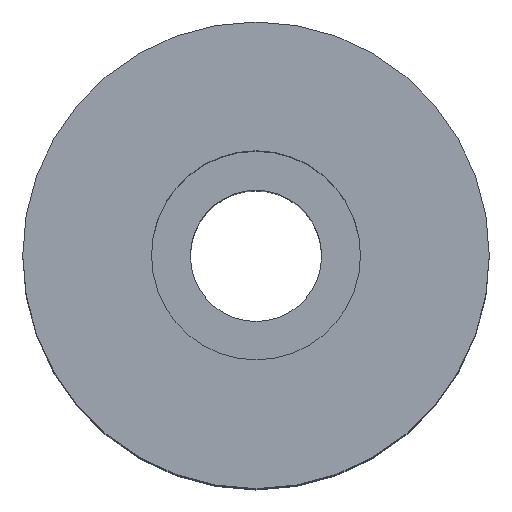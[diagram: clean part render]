
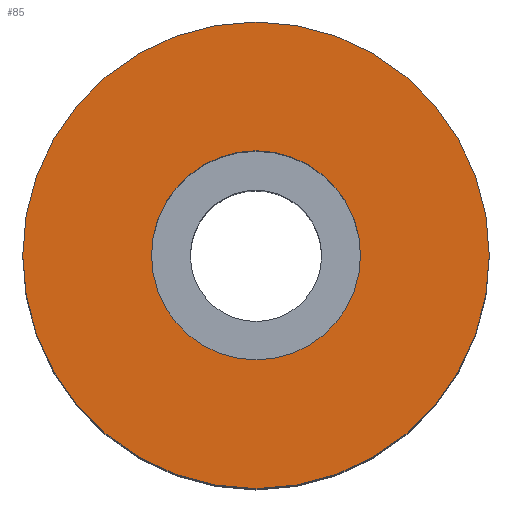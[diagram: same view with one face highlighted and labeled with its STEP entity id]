
A CAD part, top view. The second image highlights one B-rep face of the part: STEP entity #85.
In plain terms, the highlighted planar face has unit normal (0, 0, 1).
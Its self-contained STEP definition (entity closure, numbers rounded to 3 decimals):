
#85=ADVANCED_FACE('',(#132,#133),#134,.T.);
#132=FACE_BOUND('',#183,.T.);
#133=FACE_OUTER_BOUND('',#184,.T.);
#134=PLANE('',#185);
#183=EDGE_LOOP('',(#345,#346));
#184=EDGE_LOOP('',(#347,#348));
#185=AXIS2_PLACEMENT_3D('',#349,#350,#351);
#345=ORIENTED_EDGE('',*,*,#417,.F.);
#346=ORIENTED_EDGE('',*,*,#410,.F.);
#347=ORIENTED_EDGE('',*,*,#414,.T.);
#348=ORIENTED_EDGE('',*,*,#415,.T.);
#349=CARTESIAN_POINT('',(17.375,0.0,80.247));
#350=DIRECTION('',(-0.0,0.,1.0));
#351=DIRECTION('',(1.0,0.0,0.0));
#410=EDGE_CURVE('',#492,#488,#494,.T.);
#414=EDGE_CURVE('',#496,#500,#502,.T.);
#415=EDGE_CURVE('',#500,#496,#503,.T.);
#417=EDGE_CURVE('',#488,#492,#505,.T.);
#488=VERTEX_POINT('',#586);
#492=VERTEX_POINT('',#591);
#494=CIRCLE('',#594,10.75);
#496=VERTEX_POINT('',#596);
#500=VERTEX_POINT('',#601);
#502=CIRCLE('',#604,24.0);
#503=CIRCLE('',#605,24.0);
#505=CIRCLE('',#607,10.75);
#586=CARTESIAN_POINT('',(10.75,0.0,80.247));
#591=CARTESIAN_POINT('',(-10.75,0.,80.247));
#594=AXIS2_PLACEMENT_3D('',#717,#718,#719);
#596=CARTESIAN_POINT('',(24.0,0.0,80.247));
#601=CARTESIAN_POINT('',(-24.0,0.,80.247));
#604=AXIS2_PLACEMENT_3D('',#725,#726,#727);
#605=AXIS2_PLACEMENT_3D('',#728,#729,#730);
#607=AXIS2_PLACEMENT_3D('',#734,#735,#736);
#717=CARTESIAN_POINT('',(0.0,0.0,80.247));
#718=DIRECTION('',(-0.0,0.,1.0));
#719=DIRECTION('',(1.0,0.0,0.0));
#725=CARTESIAN_POINT('',(0.0,0.0,80.247));
#726=DIRECTION('',(-0.0,0.,1.0));
#727=DIRECTION('',(1.0,0.0,0.0));
#728=CARTESIAN_POINT('',(0.0,0.0,80.247));
#729=DIRECTION('',(-0.0,0.,1.0));
#730=DIRECTION('',(1.0,0.0,0.0));
#734=CARTESIAN_POINT('',(0.0,0.0,80.247));
#735=DIRECTION('',(-0.0,0.,1.0));
#736=DIRECTION('',(1.0,0.0,0.0));
